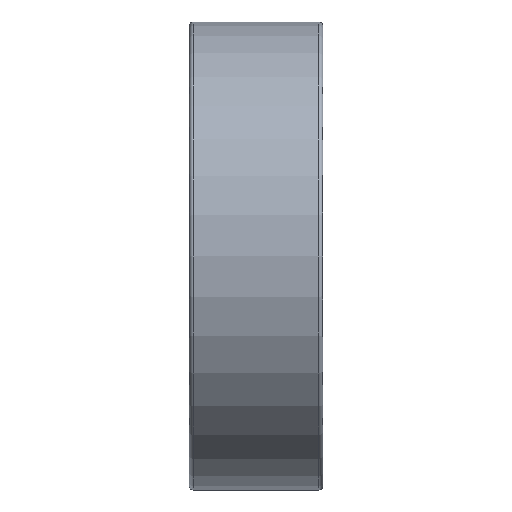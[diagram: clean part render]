
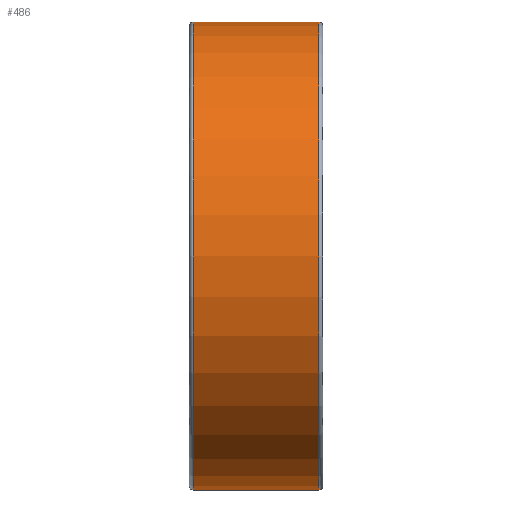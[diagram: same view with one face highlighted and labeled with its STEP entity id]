
A CAD part, front view. The second image highlights one B-rep face of the part: STEP entity #486.
In plain terms, the highlighted cylindrical face has radius 17.5 mm (diameter 35 mm), a full revolution.
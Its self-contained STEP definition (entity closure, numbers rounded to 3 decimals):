
#155=CYLINDRICAL_SURFACE('',#750,17.5);
#239=EDGE_LOOP('',(#335));
#240=EDGE_LOOP('',(#336));
#335=ORIENTED_EDGE('',*,*,#391,.F.);
#336=ORIENTED_EDGE('',*,*,#389,.T.);
#389=EDGE_CURVE('',#685,#685,#409,.T.);
#391=EDGE_CURVE('',#687,#687,#411,.T.);
#409=CIRCLE('',#746,17.5);
#411=CIRCLE('',#749,17.5);
#486=ADVANCED_FACE('',(#603,#604),#155,.T.);
#603=FACE_BOUND('',#239,.T.);
#604=FACE_BOUND('',#240,.T.);
#685=VERTEX_POINT('',#2626);
#687=VERTEX_POINT('',#2631);
#746=AXIS2_PLACEMENT_3D('',#2625,#862,#863);
#749=AXIS2_PLACEMENT_3D('',#2630,#868,#869);
#750=AXIS2_PLACEMENT_3D('',#2632,#870,#871);
#862=DIRECTION('',(1.,0.,0.));
#863=DIRECTION('',(0.,0.,-1.));
#868=DIRECTION('',(1.,0.,0.));
#869=DIRECTION('',(0.,0.,-1.));
#870=DIRECTION('',(1.,0.,0.));
#871=DIRECTION('',(0.,0.,-1.));
#2625=CARTESIAN_POINT('',(-4.7,0.,0.));
#2626=CARTESIAN_POINT('',(-4.7,0.,-17.5));
#2630=CARTESIAN_POINT('',(4.7,0.,0.));
#2631=CARTESIAN_POINT('',(4.7,0.,-17.5));
#2632=CARTESIAN_POINT('',(-4.7,0.,0.));
